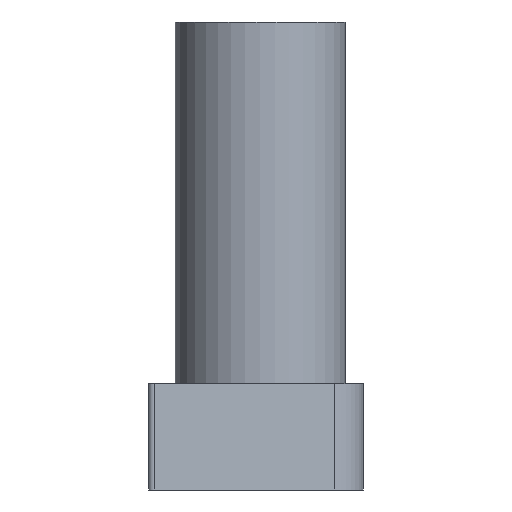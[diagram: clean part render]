
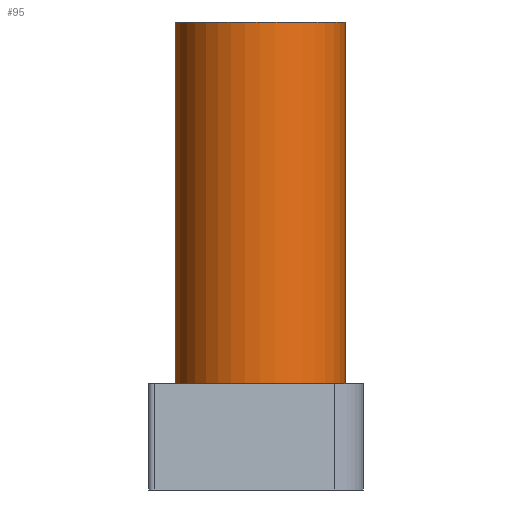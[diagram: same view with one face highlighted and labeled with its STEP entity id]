
A CAD part, left-side view. The second image highlights one B-rep face of the part: STEP entity #95.
In plain terms, the highlighted cylindrical face has radius 4 mm (diameter 8 mm), a full revolution.
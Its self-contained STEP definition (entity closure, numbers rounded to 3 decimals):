
#68=CARTESIAN_POINT('',(1.425,4.005,5.0));
#69=DIRECTION('',(0.0,0.0,1.0));
#70=DIRECTION('',(-1.0,0.0,0.0));
#71=AXIS2_PLACEMENT_3D('',#68,#69,#70);
#72=CYLINDRICAL_SURFACE('',#71,4.0);
#73=CARTESIAN_POINT('',(5.425,4.005,22.0));
#74=VERTEX_POINT('',#73);
#75=CARTESIAN_POINT('',(1.425,4.005,22.0));
#76=DIRECTION('',(0.0,0.0,-1.0));
#77=DIRECTION('',(-1.0,0.0,0.0));
#78=AXIS2_PLACEMENT_3D('',#75,#76,#77);
#79=CIRCLE('',#78,4.0);
#80=EDGE_CURVE('',#74,#74,#79,.T.);
#81=ORIENTED_EDGE('',*,*,#80,.T.);
#82=EDGE_LOOP('',(#81));
#83=FACE_OUTER_BOUND('',#82,.T.);
#84=CARTESIAN_POINT('',(5.425,4.005,5.0));
#85=VERTEX_POINT('',#84);
#86=CARTESIAN_POINT('',(1.425,4.005,5.0));
#87=DIRECTION('',(0.0,0.0,-1.0));
#88=DIRECTION('',(-1.0,0.0,0.0));
#89=AXIS2_PLACEMENT_3D('',#86,#87,#88);
#90=CIRCLE('',#89,4.0);
#91=EDGE_CURVE('',#85,#85,#90,.T.);
#92=ORIENTED_EDGE('',*,*,#91,.F.);
#93=EDGE_LOOP('',(#92));
#94=FACE_BOUND('',#93,.T.);
#95=ADVANCED_FACE('',(#83,#94),#72,.T.);
